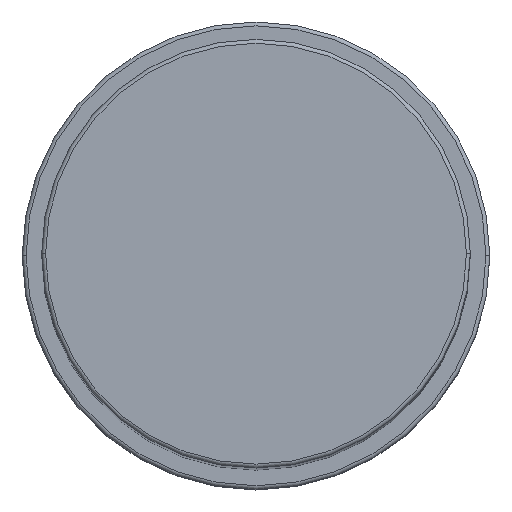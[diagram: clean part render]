
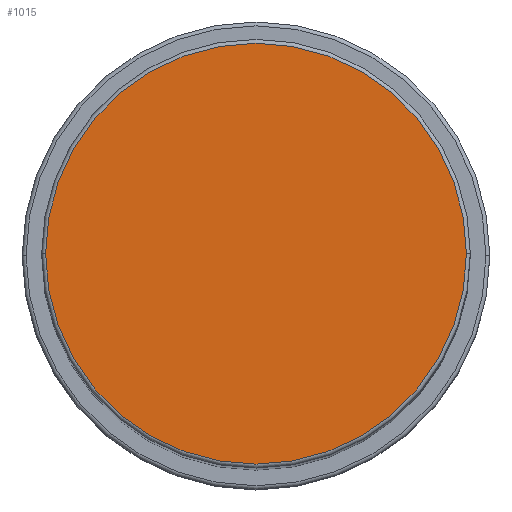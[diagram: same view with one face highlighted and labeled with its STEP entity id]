
A CAD part, top view. The second image highlights one B-rep face of the part: STEP entity #1015.
In plain terms, the highlighted planar face has unit normal (0, 0, 1).
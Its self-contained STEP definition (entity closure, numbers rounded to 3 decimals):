
#157 = CIRCLE ( 'NONE', #1475, 27. ) ;
#202 = DIRECTION ( 'NONE',  ( 1., 0., 0. ) ) ;
#257 = EDGE_CURVE ( 'NONE', #1509, #1429, #1491, .T. ) ;
#304 = CARTESIAN_POINT ( 'NONE',  ( 0., 0., 168. ) ) ;
#332 = CARTESIAN_POINT ( 'NONE',  ( 0., 0., 168. ) ) ;
#402 = ORIENTED_EDGE ( 'NONE', *, *, #1395, .T. ) ;
#409 = DIRECTION ( 'NONE',  ( 1., 0., 0. ) ) ;
#470 = AXIS2_PLACEMENT_3D ( 'NONE', #332, #605, #202 ) ;
#605 = DIRECTION ( 'NONE',  ( 0., 0., 1. ) ) ;
#959 = CARTESIAN_POINT ( 'NONE',  ( 27., 0., 168. ) ) ;
#961 = PLANE ( 'NONE',  #470 ) ;
#1015 = ADVANCED_FACE ( 'NONE', ( #1375 ), #961, .T. ) ;
#1092 = AXIS2_PLACEMENT_3D ( 'NONE', #304, #1586, #1602 ) ;
#1200 = DIRECTION ( 'NONE',  ( 0., 0., 1. ) ) ;
#1203 = CARTESIAN_POINT ( 'NONE',  ( 0., 0., 168. ) ) ;
#1375 = FACE_OUTER_BOUND ( 'NONE', #1489, .T. ) ;
#1386 = ORIENTED_EDGE ( 'NONE', *, *, #257, .T. ) ;
#1395 = EDGE_CURVE ( 'NONE', #1429, #1509, #157, .T. ) ;
#1429 = VERTEX_POINT ( 'NONE', #1455 ) ;
#1455 = CARTESIAN_POINT ( 'NONE',  ( -27., 0., 168. ) ) ;
#1475 = AXIS2_PLACEMENT_3D ( 'NONE', #1203, #1200, #409 ) ;
#1489 = EDGE_LOOP ( 'NONE', ( #1386, #402 ) ) ;
#1491 = CIRCLE ( 'NONE', #1092, 27. ) ;
#1509 = VERTEX_POINT ( 'NONE', #959 ) ;
#1586 = DIRECTION ( 'NONE',  ( 0., 0., 1. ) ) ;
#1602 = DIRECTION ( 'NONE',  ( 1., 0., 0. ) ) ;
